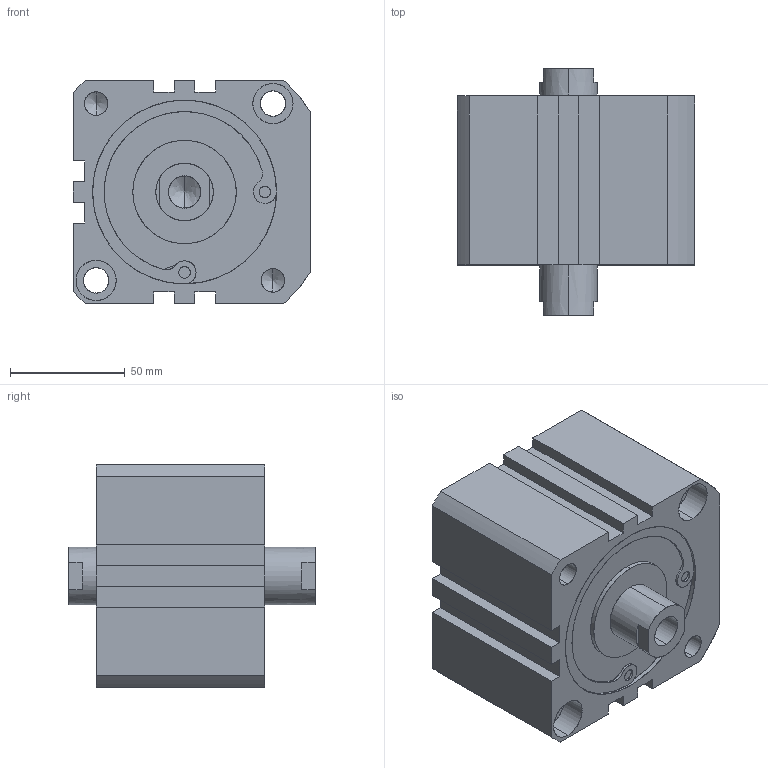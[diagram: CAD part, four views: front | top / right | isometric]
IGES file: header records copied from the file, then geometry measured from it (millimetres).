
Start section: SolidWorks IGES file using analytic representation for surfaces
Global section: file name: C:\Users\Toshiba\Desktop\XG#7-80-10.IGS; native system: SolidWorks 2014; preprocessor: SolidWorks 2014; author: Toshiba; date: 160524.100047; units: millimetre
Bounding box: 103.5 x 107.5 x 97 mm (x, y, z)
Surface area: 69054.3 mm2 (no closed solid volume)
Topology: 0 solids, 0 shells, 142 faces, 2638 edges, 2622 vertices
Faces by surface type: revolution 86, bspline 56
